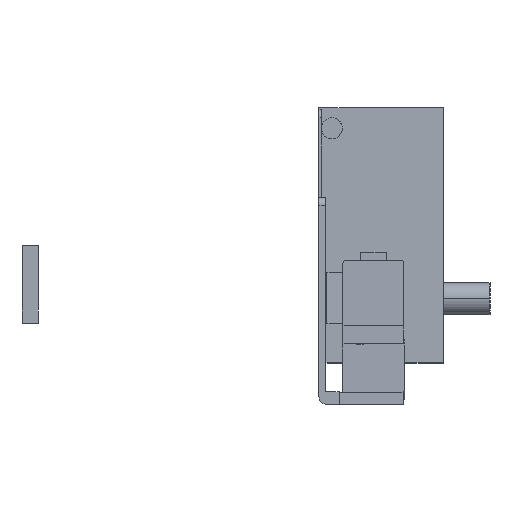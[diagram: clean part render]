
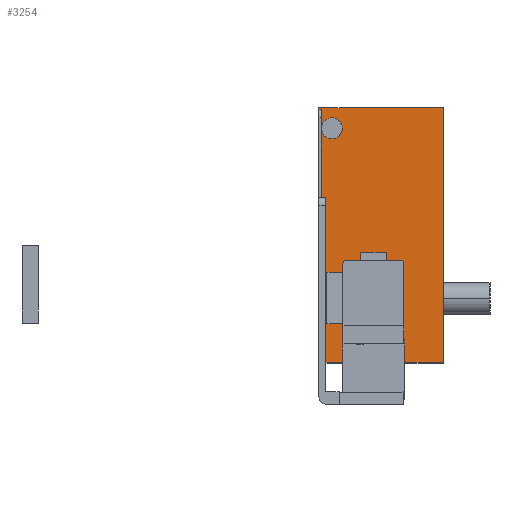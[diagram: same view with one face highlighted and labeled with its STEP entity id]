
A CAD part, front view. The second image highlights one B-rep face of the part: STEP entity #3254.
In plain terms, the highlighted planar face has unit normal (0, -1, 0.007).
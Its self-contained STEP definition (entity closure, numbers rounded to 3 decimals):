
#3 = CARTESIAN_POINT ( 'NONE',  ( 38.8, 471.303, 42.916 ) ) ;
#52 = CARTESIAN_POINT ( 'NONE',  ( 7.25, 470.771, -36.478 ) ) ;
#324 = DIRECTION ( 'NONE',  ( 0., 0.007, 1. ) ) ;
#326 = CARTESIAN_POINT ( 'NONE',  ( 7.25, 470.906, -16.395 ) ) ;
#335 =( BOUNDED_CURVE ( )  B_SPLINE_CURVE ( 3, ( #4110, #4111, #4112, #4113 ),
 .UNSPECIFIED., .F., .T. ) 
 B_SPLINE_CURVE_WITH_KNOTS ( ( 4, 4 ),
 ( 3.142, 4.712 ),
 .UNSPECIFIED. ) 
 CURVE ( )  GEOMETRIC_REPRESENTATION_ITEM ( )  RATIONAL_B_SPLINE_CURVE ( ( 1., 0.805, 0.805, 1. ) ) 
 REPRESENTATION_ITEM ( '' )  );
#341 =( BOUNDED_CURVE ( )  B_SPLINE_CURVE ( 3, ( #4114, #4115, #4116, #4117 ),
 .UNSPECIFIED., .F., .T. ) 
 B_SPLINE_CURVE_WITH_KNOTS ( ( 4, 4 ),
 ( 4.712, 6.283 ),
 .UNSPECIFIED. ) 
 CURVE ( )  GEOMETRIC_REPRESENTATION_ITEM ( )  RATIONAL_B_SPLINE_CURVE ( ( 1., 0.805, 0.805, 1. ) ) 
 REPRESENTATION_ITEM ( '' )  );
#418 = LINE ( 'NONE', #4120, #419 ) ;
#419 = VECTOR ( 'NONE', #4121, 1000. ) ;
#420 = LINE ( 'NONE', #4122, #421 ) ;
#421 = VECTOR ( 'NONE', #4123, 1000. ) ;
#422 = LINE ( 'NONE', #4124, #423 ) ;
#423 = VECTOR ( 'NONE', #4125, 1000. ) ;
#424 = LINE ( 'NONE', #4126, #425 ) ;
#425 = VECTOR ( 'NONE', #4127, 1000. ) ;
#426 = LINE ( 'NONE', #4128, #427 ) ;
#427 = VECTOR ( 'NONE', #4129, 1000. ) ;
#428 = LINE ( 'NONE', #4130, #429 ) ;
#429 = VECTOR ( 'NONE', #4131, 1000. ) ;
#430 = LINE ( 'NONE', #4132, #431 ) ;
#431 = VECTOR ( 'NONE', #4133, 1000. ) ;
#432 = LINE ( 'NONE', #4134, #433 ) ;
#433 = VECTOR ( 'NONE', #4135, 1000. ) ;
#657 = FACE_OUTER_BOUND ( 'NONE', #2410, .T. ) ;
#889 = DIRECTION ( 'NONE',  ( 0., 0.007, 1. ) ) ;
#890 = CARTESIAN_POINT ( 'NONE',  ( 26.75, 470.906, -16.395 ) ) ;
#1009 = EDGE_CURVE ( 'NONE', #5146, #5180, #2461, .T. ) ;
#1099 = EDGE_CURVE ( 'NONE', #5175, #5163, #2603, .T. ) ;
#1156 = EDGE_CURVE ( 'NONE', #5167, #5149, #2707, .T. ) ;
#1162 = EDGE_CURVE ( 'NONE', #5229, #5174, #2716, .T. ) ;
#1385 = EDGE_CURVE ( 'NONE', #5175, #5149, #335, .T. ) ;
#1386 = EDGE_CURVE ( 'NONE', #5174, #5163, #341, .T. ) ;
#1388 = EDGE_CURVE ( 'NONE', #5058, #5057, #418, .T. ) ;
#1389 = EDGE_CURVE ( 'NONE', #5057, #5056, #420, .T. ) ;
#1390 = EDGE_CURVE ( 'NONE', #5055, #5056, #422, .T. ) ;
#1391 = EDGE_CURVE ( 'NONE', #5055, #5229, #424, .T. ) ;
#1392 = EDGE_CURVE ( 'NONE', #5167, #5146, #426, .T. ) ;
#1393 = EDGE_CURVE ( 'NONE', #5180, #5053, #428, .T. ) ;
#1394 = EDGE_CURVE ( 'NONE', #5052, #5053, #430, .T. ) ;
#1395 = EDGE_CURVE ( 'NONE', #5058, #5052, #432, .T. ) ;
#1647 = AXIS2_PLACEMENT_3D ( 'NONE', #4527, #4528, #4529 ) ;
#1755 = DIRECTION ( 'NONE',  ( -1., 0., 0. ) ) ;
#1759 = CARTESIAN_POINT ( 'NONE',  ( 26.75, 470.806, -31.252 ) ) ;
#2092 = ORIENTED_EDGE ( 'NONE', *, *, #1388, .T. ) ;
#2093 = ORIENTED_EDGE ( 'NONE', *, *, #1389, .T. ) ;
#2094 = ORIENTED_EDGE ( 'NONE', *, *, #1390, .F. ) ;
#2095 = ORIENTED_EDGE ( 'NONE', *, *, #1391, .T. ) ;
#2096 = ORIENTED_EDGE ( 'NONE', *, *, #1162, .T. ) ;
#2097 = ORIENTED_EDGE ( 'NONE', *, *, #1386, .T. ) ;
#2098 = ORIENTED_EDGE ( 'NONE', *, *, #1099, .F. ) ;
#2099 = ORIENTED_EDGE ( 'NONE', *, *, #1385, .T. ) ;
#2100 = ORIENTED_EDGE ( 'NONE', *, *, #1156, .F. ) ;
#2101 = ORIENTED_EDGE ( 'NONE', *, *, #1392, .T. ) ;
#2102 = ORIENTED_EDGE ( 'NONE', *, *, #1009, .T. ) ;
#2103 = ORIENTED_EDGE ( 'NONE', *, *, #1393, .T. ) ;
#2104 = ORIENTED_EDGE ( 'NONE', *, *, #1394, .F. ) ;
#2105 = ORIENTED_EDGE ( 'NONE', *, *, #1395, .F. ) ;
#2410 = EDGE_LOOP ( 'NONE', ( #2092, #2093, #2094, #2095, #2096, #2097, #2098, #2099, #2100, #2101, #2102, #2103, #2104, #2105 ) ) ;
#2461 = LINE ( 'NONE', #4994, #2462 ) ;
#2462 = VECTOR ( 'NONE', #4993, 1000. ) ;
#2603 = LINE ( 'NONE', #1759, #2604 ) ;
#2604 = VECTOR ( 'NONE', #1755, 1000. ) ;
#2707 = LINE ( 'NONE', #890, #2708 ) ;
#2708 = VECTOR ( 'NONE', #889, 1000. ) ;
#2716 = LINE ( 'NONE', #326, #2718 ) ;
#2718 = VECTOR ( 'NONE', #324, 1000. ) ;
#3254 = ADVANCED_FACE ( 'NONE', ( #657 ), #4526, .T. ) ;
#4110 = CARTESIAN_POINT ( 'NONE',  ( 25.75, 470.806, -31.252 ) ) ;
#4111 = CARTESIAN_POINT ( 'NONE',  ( 26.336, 470.806, -31.252 ) ) ;
#4112 = CARTESIAN_POINT ( 'NONE',  ( 26.75, 470.804, -31.666 ) ) ;
#4113 = CARTESIAN_POINT ( 'NONE',  ( 26.75, 470.8, -32.252 ) ) ;
#4114 = CARTESIAN_POINT ( 'NONE',  ( 7.25, 470.8, -32.252 ) ) ;
#4115 = CARTESIAN_POINT ( 'NONE',  ( 7.25, 470.804, -31.666 ) ) ;
#4116 = CARTESIAN_POINT ( 'NONE',  ( 7.664, 470.806, -31.252 ) ) ;
#4117 = CARTESIAN_POINT ( 'NONE',  ( 8.25, 470.806, -31.252 ) ) ;
#4120 = CARTESIAN_POINT ( 'NONE',  ( 8., 470.705, -46.439 ) ) ;
#4121 = DIRECTION ( 'NONE',  ( 0., -0.007, -1. ) ) ;
#4122 = CARTESIAN_POINT ( 'NONE',  ( 2.5, 470.852, -24.44 ) ) ;
#4123 = DIRECTION ( 'NONE',  ( -1., 0., 0. ) ) ;
#4124 = CARTESIAN_POINT ( 'NONE',  ( 0., 470.705, -46.439 ) ) ;
#4125 = DIRECTION ( 'NONE',  ( 0., 0.007, 1. ) ) ;
#4126 = CARTESIAN_POINT ( 'NONE',  ( 7.25, 470.771, -36.478 ) ) ;
#4127 = DIRECTION ( 'NONE',  ( 1., 0., 0. ) ) ;
#4128 = CARTESIAN_POINT ( 'NONE',  ( 38.8, 470.771, -36.478 ) ) ;
#4129 = DIRECTION ( 'NONE',  ( 1., 0., 0. ) ) ;
#4130 = CARTESIAN_POINT ( 'NONE',  ( 38.8, 471.303, 42.916 ) ) ;
#4131 = DIRECTION ( 'NONE',  ( -1., 0., 0. ) ) ;
#4132 = CARTESIAN_POINT ( 'NONE',  ( 0., 470.705, -46.439 ) ) ;
#4133 = DIRECTION ( 'NONE',  ( 0., 0.007, 1. ) ) ;
#4134 = CARTESIAN_POINT ( 'NONE',  ( 2.5, 470.959, -8.44 ) ) ;
#4135 = DIRECTION ( 'NONE',  ( -1., 0., 0. ) ) ;
#4526 = PLANE ( 'NONE',  #1647 ) ;
#4527 = CARTESIAN_POINT ( 'NONE',  ( 38.8, 470.705, -46.439 ) ) ;
#4528 = DIRECTION ( 'NONE',  ( 0., -1., 0.007 ) ) ;
#4529 = DIRECTION ( 'NONE',  ( 0., 0.007, 1. ) ) ;
#4816 = CARTESIAN_POINT ( 'NONE',  ( 0., 470.959, -8.44 ) ) ;
#4817 = CARTESIAN_POINT ( 'NONE',  ( 0., 471.303, 42.916 ) ) ;
#4819 = CARTESIAN_POINT ( 'NONE',  ( 0., 470.771, -36.478 ) ) ;
#4820 = CARTESIAN_POINT ( 'NONE',  ( 0., 470.852, -24.44 ) ) ;
#4821 = CARTESIAN_POINT ( 'NONE',  ( 8., 470.852, -24.44 ) ) ;
#4822 = CARTESIAN_POINT ( 'NONE',  ( 8., 470.959, -8.44 ) ) ;
#4910 = CARTESIAN_POINT ( 'NONE',  ( 38.8, 470.771, -36.478 ) ) ;
#4913 = CARTESIAN_POINT ( 'NONE',  ( 26.75, 470.8, -32.252 ) ) ;
#4927 = CARTESIAN_POINT ( 'NONE',  ( 8.25, 470.806, -31.252 ) ) ;
#4931 = CARTESIAN_POINT ( 'NONE',  ( 26.75, 470.771, -36.478 ) ) ;
#4938 = CARTESIAN_POINT ( 'NONE',  ( 7.25, 470.8, -32.252 ) ) ;
#4939 = CARTESIAN_POINT ( 'NONE',  ( 25.75, 470.806, -31.252 ) ) ;
#4993 = DIRECTION ( 'NONE',  ( 0., 0.007, 1. ) ) ;
#4994 = CARTESIAN_POINT ( 'NONE',  ( 38.8, 470.705, -46.439 ) ) ;
#5052 = VERTEX_POINT ( 'NONE', #4816 ) ;
#5053 = VERTEX_POINT ( 'NONE', #4817 ) ;
#5055 = VERTEX_POINT ( 'NONE', #4819 ) ;
#5056 = VERTEX_POINT ( 'NONE', #4820 ) ;
#5057 = VERTEX_POINT ( 'NONE', #4821 ) ;
#5058 = VERTEX_POINT ( 'NONE', #4822 ) ;
#5146 = VERTEX_POINT ( 'NONE', #4910 ) ;
#5149 = VERTEX_POINT ( 'NONE', #4913 ) ;
#5163 = VERTEX_POINT ( 'NONE', #4927 ) ;
#5167 = VERTEX_POINT ( 'NONE', #4931 ) ;
#5174 = VERTEX_POINT ( 'NONE', #4938 ) ;
#5175 = VERTEX_POINT ( 'NONE', #4939 ) ;
#5180 = VERTEX_POINT ( 'NONE', #3 ) ;
#5229 = VERTEX_POINT ( 'NONE', #52 ) ;
